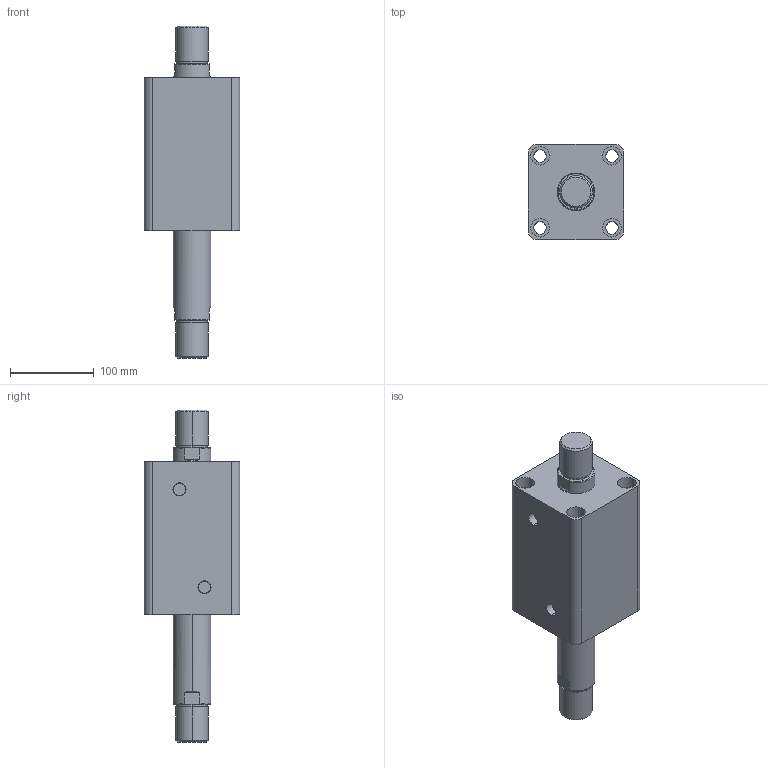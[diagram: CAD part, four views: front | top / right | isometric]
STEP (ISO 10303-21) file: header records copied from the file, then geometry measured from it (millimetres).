
FILE_DESCRIPTION (( 'STEP AP203' ), '1' );
FILE_NAME ('HTB-SW80-90W.STEP', '2019-10-07T10:27:12', ( '微软用户' ), ( '微软中国' ), 'SwSTEP 2.0', 'SolidWorks 2012', '' );
FILE_SCHEMA (( 'CONFIG_CONTROL_DESIGN' ));
Length unit declared in the file: millimetre
Products named in the file (3): HTB-SW80-90W; HTB-SW80-90W活塞杆; HTB-SW80-90掛极
Assembly tree (2 placements, depth 2):
  HTB-SW80-90W
    HTB-SW80-90掛极
    HTB-SW80-90W活塞杆
Bounding box: 114 x 114 x 397 mm (x, y, z)
Volume: 2197060.4 mm3; surface area: 253896.8 mm2
Topology: 2 solids, 2 shells, 108 faces, 240 edges, 156 vertices
Faces by surface type: cylinder 52, plane 36, torus 12, cone 8
Entity records: 3449 total; most frequent: CARTESIAN_POINT 629, DIRECTION 586, ORIENTED_EDGE 480, AXIS2_PLACEMENT_3D 249, EDGE_CURVE 240, VERTEX_POINT 156, EDGE_LOOP 138, CIRCLE 136
